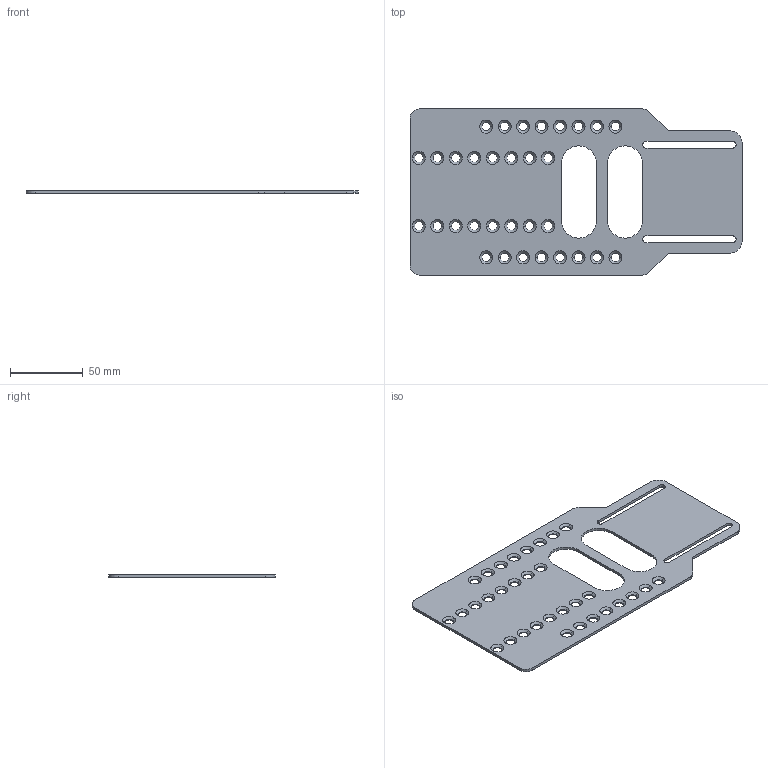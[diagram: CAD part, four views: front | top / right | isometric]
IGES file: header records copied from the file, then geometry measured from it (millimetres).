
Start section:  PTC IGES file: cu_bkt_side_plt_rack_mount_short.igs
Global section: file name: cu_bkt_side_plt_rack_mount_short.igs; native system: Creo Parametric by PTC Inc.; preprocessor: 2017480; author: talbott; organization: Unknown; date: 20180606.113033; units: millimetre
Bounding box: 228.35 x 114.3 x 1.9 mm (x, y, z)
Surface area: 43025.5 mm2 (no closed solid volume)
Topology: 0 solids, 0 shells, 164 faces, 844 edges, 844 vertices
Faces by surface type: revolution 144, bspline 20
